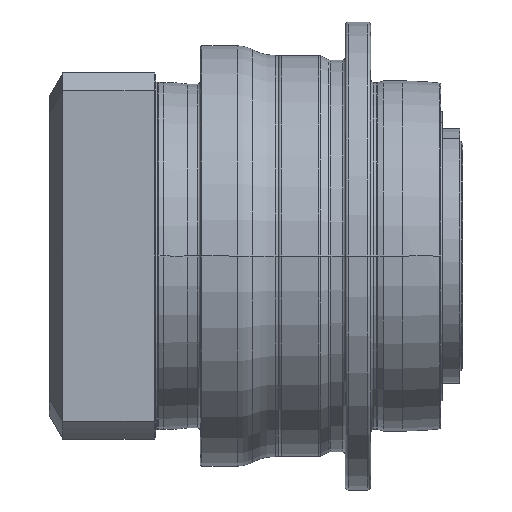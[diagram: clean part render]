
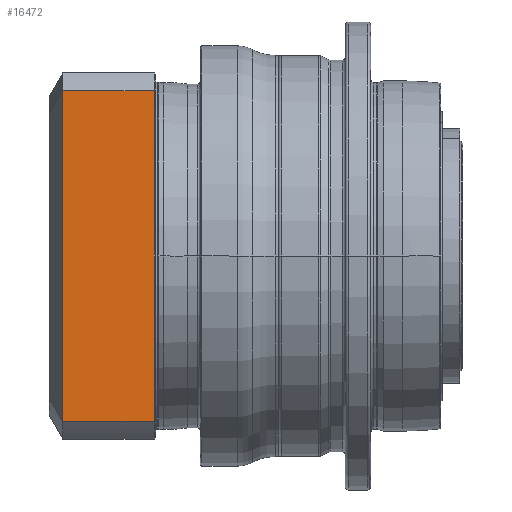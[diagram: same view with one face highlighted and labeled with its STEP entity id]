
A CAD part, front view. The second image highlights one B-rep face of the part: STEP entity #16472.
In plain terms, the highlighted planar face has unit normal (0, -1, 0) as drawn and (0, 1, 0) by its records, which use the part's own axes.
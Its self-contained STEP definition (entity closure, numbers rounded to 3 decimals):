
#15194=CARTESIAN_POINT('',(-51.962,57.5,31.7));
#15196=DIRECTION('',(-1.,0.,0.));
#15197=VECTOR('',#15196,103.923);
#15198=CARTESIAN_POINT('',(51.962,57.5,31.7));
#15199=LINE('',#15198,#15197);
#15200=DIRECTION('',(0.,0.,1.));
#15201=VECTOR('',#15200,28.7);
#15202=CARTESIAN_POINT('',(-51.962,57.5,3.));
#15203=LINE('',#15202,#15201);
#15204=DIRECTION('',(0.,0.,1.));
#15205=VECTOR('',#15204,28.7);
#15206=CARTESIAN_POINT('',(51.962,57.5,3.));
#15207=LINE('',#15206,#15205);
#15228=DIRECTION('',(-1.,0.,0.));
#15229=VECTOR('',#15228,103.923);
#15230=CARTESIAN_POINT('',(51.962,57.5,3.));
#15231=LINE('',#15230,#15229);
#15665=CARTESIAN_POINT('',(51.962,57.5,3.));
#15666=CARTESIAN_POINT('',(-51.962,57.5,3.));
#15667=VERTEX_POINT('',#15665);
#15668=VERTEX_POINT('',#15666);
#15742=CARTESIAN_POINT('',(51.962,57.5,31.7));
#15744=VERTEX_POINT('',#15742);
#15746=VERTEX_POINT('',#15194);
#16458=CARTESIAN_POINT('',(57.5,57.5,0.));
#16459=DIRECTION('',(0.,1.,0.));
#16460=DIRECTION('',(-1.,0.,0.));
#16461=AXIS2_PLACEMENT_3D('',#16458,#16459,#16460);
#16462=PLANE('',#16461);
#16463=ORIENTED_EDGE('',*,*,#16453,.T.);
#16465=ORIENTED_EDGE('',*,*,#16464,.F.);
#16467=ORIENTED_EDGE('',*,*,#16466,.F.);
#16469=ORIENTED_EDGE('',*,*,#16468,.T.);
#16470=EDGE_LOOP('',(#16463,#16465,#16467,#16469));
#16471=FACE_OUTER_BOUND('',#16470,.F.);
#16472=ADVANCED_FACE('',(#16471),#16462,.T.);
#16453=EDGE_CURVE('',#15744,#15746,#15199,.T.);
#16464=EDGE_CURVE('',#15668,#15746,#15203,.T.);
#16466=EDGE_CURVE('',#15667,#15668,#15231,.T.);
#16468=EDGE_CURVE('',#15667,#15744,#15207,.T.);
